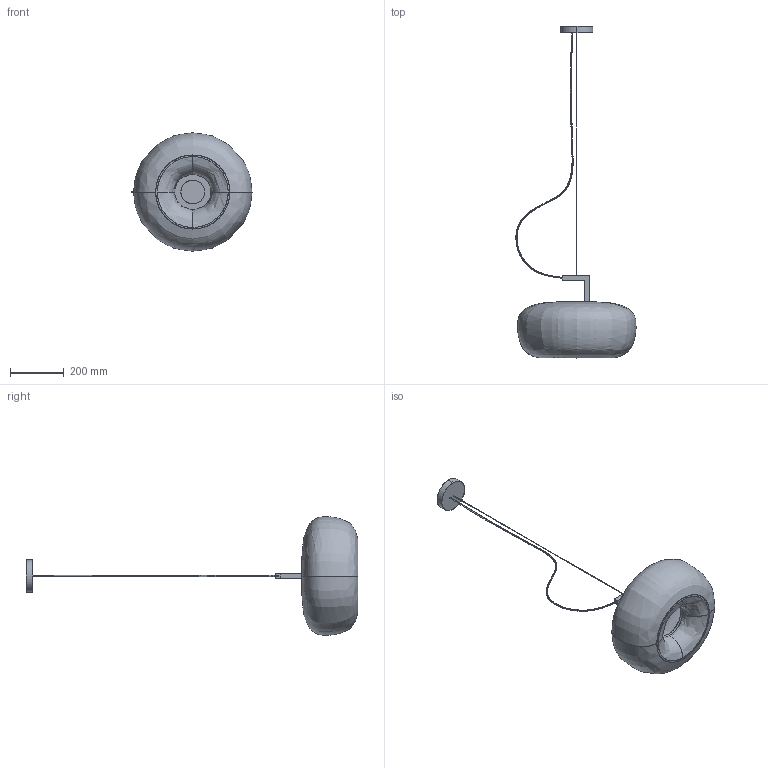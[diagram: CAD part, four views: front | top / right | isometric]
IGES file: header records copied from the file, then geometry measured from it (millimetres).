
Start section: SolidWorks IGES file using analytic representation for surfaces
Global section: file name: F:\燠隴矨\3D\2026-4\Doppelte Pendant Lamp-A-D44cm.IGS,15; native system: HSolidWorks 2022; preprocessor: SolidWorks 2022; author: MyPC; date: 260414.170034; units: millimetre
Bounding box: 445.85 x 1231.97 x 440 mm (x, y, z)
Surface area: 1189661.1 mm2 (no closed solid volume)
Topology: 0 solids, 0 shells, 53 faces, 1044 edges, 1044 vertices
Faces by surface type: bspline 41, revolution 12
